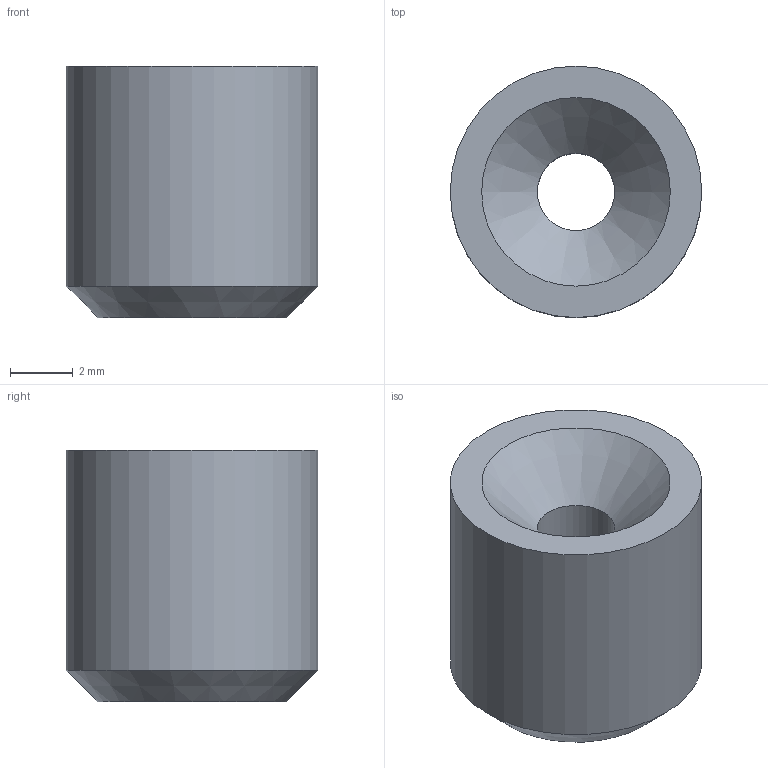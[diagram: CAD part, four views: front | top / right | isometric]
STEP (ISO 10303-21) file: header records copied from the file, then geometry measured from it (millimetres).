
FILE_DESCRIPTION(/* description */ ('Cone Bushing'),/* implementation_level */ '2;1');
FILE_NAME(/* name */ 'Z:\Werkstatt Server\Projekte\Atlas\Entwicklung u. Konstruktion\Konstruktion\CAD Daten\ITkPixToolV2.0\Baremodule Jig\Pivote Plate\ITPTv2.01.01.04.stp',/* time_stamp */ '2021-08-06T14:18:17+02:00',/* author */ ('Tim Kanngießer'),/* organization */ (''),/* preprocessor_version */ 'ST-DEVELOPER v18.1',/* originating_system */ 'Autodesk Inventor 2022',/* authorisation */ '');
FILE_SCHEMA (('AUTOMOTIVE_DESIGN { 1 0 10303 214 3 1 1 }'));
Length unit declared in the file: millimetre
Products named in the file (1): ITPTv2.01.01.04
Bounding box: 8 x 8 x 8 mm (x, y, z)
Volume: 334.7 mm3; surface area: 333.9 mm2
Topology: 1 solids, 1 shells, 6 faces, 12 edges, 8 vertices
Faces by surface type: cylinder 2, cone 2, plane 2
Full cylindrical faces by diameter (mm): 2.459 x1, 8 x1
Entity records: 209 total; most frequent: DIRECTION 34, CARTESIAN_POINT 27, ORIENTED_EDGE 24, AXIS2_PLACEMENT_3D 15, EDGE_CURVE 12, EDGE_LOOP 8, CIRCLE 8, VERTEX_POINT 8
